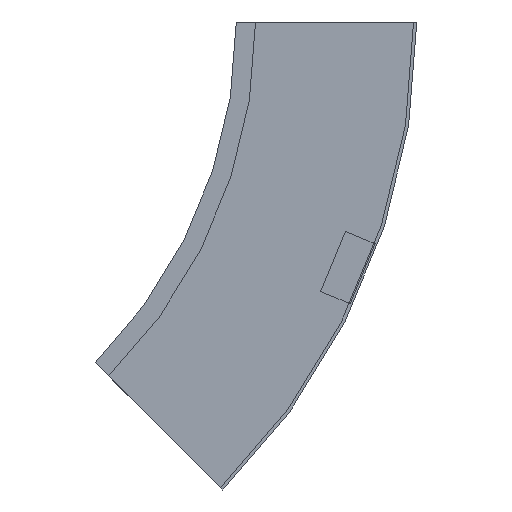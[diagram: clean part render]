
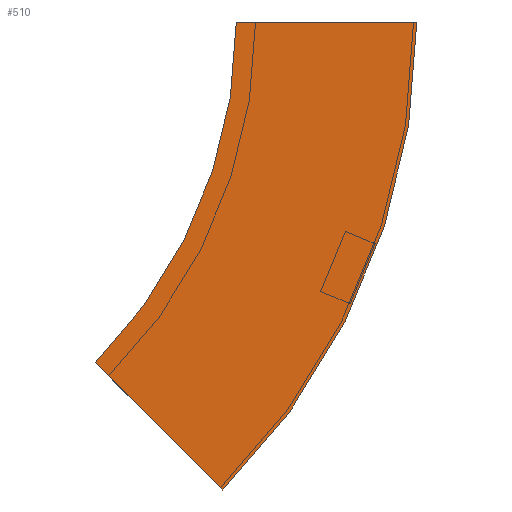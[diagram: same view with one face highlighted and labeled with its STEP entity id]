
A CAD part, left-side view. The second image highlights one B-rep face of the part: STEP entity #510.
In plain terms, the highlighted planar face has unit normal (-1, 0, 0) as drawn and (1, 0, 0) by its records, which use the part's own axes.
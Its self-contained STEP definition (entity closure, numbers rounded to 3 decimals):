
#3 = CARTESIAN_POINT ( 'NONE',  ( 0., 8.318, -291.682 ) ) ;
#10 = CARTESIAN_POINT ( 'NONE',  ( 0., -112.5, 0. ) ) ;
#31 = CIRCLE ( 'NONE', #131, 300. ) ;
#64 = AXIS2_PLACEMENT_3D ( 'NONE', #222, #183, #460 ) ;
#79 = LINE ( 'NONE', #562, #298 ) ;
#85 = CARTESIAN_POINT ( 'NONE',  ( 0., 8.318, -291.682 ) ) ;
#97 = VERTEX_POINT ( 'NONE', #268 ) ;
#102 = CARTESIAN_POINT ( 'NONE',  ( 0., 87.868, -212.132 ) ) ;
#120 = DIRECTION ( 'NONE',  ( 1., 0., 0. ) ) ;
#131 = AXIS2_PLACEMENT_3D ( 'NONE', #439, #120, #301 ) ;
#159 = DIRECTION ( 'NONE',  ( 0., 0.707, 0.707 ) ) ;
#161 = LINE ( 'NONE', #85, #198 ) ;
#183 = DIRECTION ( 'NONE',  ( 1., 0., 0. ) ) ;
#188 = VERTEX_POINT ( 'NONE', #3 ) ;
#198 = VECTOR ( 'NONE', #159, 1000. ) ;
#212 = FACE_OUTER_BOUND ( 'NONE', #518, .T. ) ;
#222 = CARTESIAN_POINT ( 'NONE',  ( 0., 300., 0. ) ) ;
#268 = CARTESIAN_POINT ( 'NONE',  ( 0., 0., 0. ) ) ;
#298 = VECTOR ( 'NONE', #341, 1000. ) ;
#301 = DIRECTION ( 'NONE',  ( 0., -1., 0. ) ) ;
#313 = DIRECTION ( 'NONE',  ( 0., 0., 1. ) ) ;
#314 = CIRCLE ( 'NONE', #64, 412.5 ) ;
#315 = CARTESIAN_POINT ( 'NONE',  ( 0., -112.5, 0. ) ) ;
#319 = VERTEX_POINT ( 'NONE', #102 ) ;
#325 = ORIENTED_EDGE ( 'NONE', *, *, #497, .F. ) ;
#341 = DIRECTION ( 'NONE',  ( 0., 1., 0. ) ) ;
#364 = ORIENTED_EDGE ( 'NONE', *, *, #530, .T. ) ;
#369 = ORIENTED_EDGE ( 'NONE', *, *, #433, .F. ) ;
#392 = PLANE ( 'NONE',  #545 ) ;
#433 = EDGE_CURVE ( 'NONE', #97, #319, #31, .T. ) ;
#439 = CARTESIAN_POINT ( 'NONE',  ( 0., 300., 0. ) ) ;
#460 = DIRECTION ( 'NONE',  ( 0., -1., 0. ) ) ;
#488 = EDGE_CURVE ( 'NONE', #188, #319, #161, .T. ) ;
#497 = EDGE_CURVE ( 'NONE', #511, #97, #79, .T. ) ;
#498 = ORIENTED_EDGE ( 'NONE', *, *, #488, .T. ) ;
#503 = DIRECTION ( 'NONE',  ( -1., 0., 0. ) ) ;
#510 = ADVANCED_FACE ( 'NONE', ( #212 ), #392, .F. ) ;
#511 = VERTEX_POINT ( 'NONE', #315 ) ;
#518 = EDGE_LOOP ( 'NONE', ( #369, #325, #364, #498 ) ) ;
#530 = EDGE_CURVE ( 'NONE', #511, #188, #314, .T. ) ;
#545 = AXIS2_PLACEMENT_3D ( 'NONE', #10, #503, #313 ) ;
#562 = CARTESIAN_POINT ( 'NONE',  ( 0., -112.5, 0. ) ) ;
